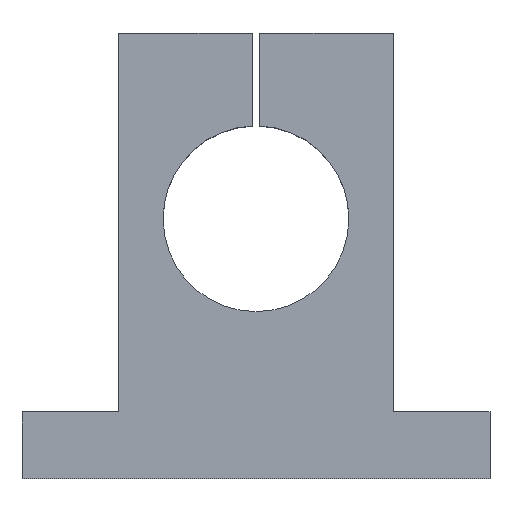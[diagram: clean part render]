
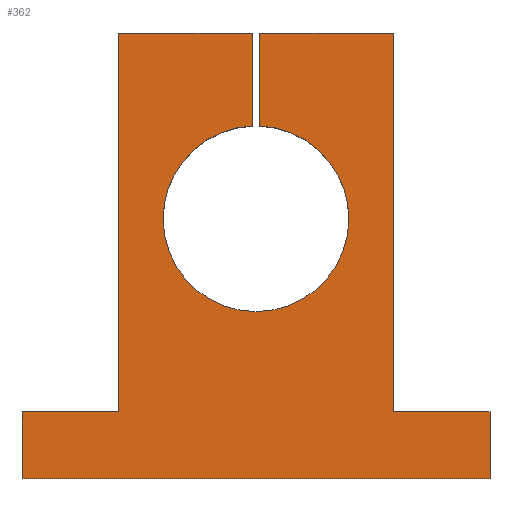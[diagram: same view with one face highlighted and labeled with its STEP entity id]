
A CAD part, top view. The second image highlights one B-rep face of the part: STEP entity #362.
In plain terms, the highlighted planar face has unit normal (0, 0, 1).
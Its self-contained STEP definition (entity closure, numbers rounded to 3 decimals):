
#27=CIRCLE('',#397,25.);
#47=ORIENTED_EDGE('',*,*,#139,.F.);
#48=ORIENTED_EDGE('',*,*,#135,.T.);
#49=ORIENTED_EDGE('',*,*,#140,.T.);
#50=ORIENTED_EDGE('',*,*,#141,.T.);
#51=ORIENTED_EDGE('',*,*,#142,.T.);
#52=ORIENTED_EDGE('',*,*,#143,.T.);
#53=ORIENTED_EDGE('',*,*,#144,.T.);
#54=ORIENTED_EDGE('',*,*,#145,.T.);
#55=ORIENTED_EDGE('',*,*,#146,.T.);
#56=ORIENTED_EDGE('',*,*,#147,.T.);
#57=ORIENTED_EDGE('',*,*,#132,.F.);
#58=ORIENTED_EDGE('',*,*,#148,.F.);
#132=EDGE_CURVE('',#178,#179,#212,.T.);
#135=EDGE_CURVE('',#181,#182,#214,.T.);
#139=EDGE_CURVE('',#181,#185,#218,.T.);
#140=EDGE_CURVE('',#182,#186,#219,.T.);
#141=EDGE_CURVE('',#186,#187,#220,.T.);
#142=EDGE_CURVE('',#187,#188,#221,.T.);
#143=EDGE_CURVE('',#188,#189,#222,.T.);
#144=EDGE_CURVE('',#189,#190,#223,.T.);
#145=EDGE_CURVE('',#190,#191,#224,.T.);
#146=EDGE_CURVE('',#191,#192,#225,.T.);
#147=EDGE_CURVE('',#192,#179,#226,.T.);
#148=EDGE_CURVE('',#185,#178,#27,.T.);
#178=VERTEX_POINT('',#531);
#179=VERTEX_POINT('',#533);
#181=VERTEX_POINT('',#539);
#182=VERTEX_POINT('',#540);
#185=VERTEX_POINT('',#548);
#186=VERTEX_POINT('',#550);
#187=VERTEX_POINT('',#552);
#188=VERTEX_POINT('',#554);
#189=VERTEX_POINT('',#556);
#190=VERTEX_POINT('',#558);
#191=VERTEX_POINT('',#560);
#192=VERTEX_POINT('',#562);
#212=LINE('',#532,#246);
#214=LINE('',#538,#248);
#218=LINE('',#547,#252);
#219=LINE('',#549,#253);
#220=LINE('',#551,#254);
#221=LINE('',#553,#255);
#222=LINE('',#555,#256);
#223=LINE('',#557,#257);
#224=LINE('',#559,#258);
#225=LINE('',#561,#259);
#226=LINE('',#563,#260);
#246=VECTOR('',#431,1000.);
#248=VECTOR('',#437,1000.);
#252=VECTOR('',#443,1000.);
#253=VECTOR('',#444,1000.);
#254=VECTOR('',#445,1000.);
#255=VECTOR('',#446,1000.);
#256=VECTOR('',#447,1000.);
#257=VECTOR('',#448,1000.);
#258=VECTOR('',#449,1000.);
#259=VECTOR('',#450,1000.);
#260=VECTOR('',#451,1000.);
#281=EDGE_LOOP('',(#47,#48,#49,#50,#51,#52,#53,#54,#55,#56,#57,#58));
#315=FACE_BOUND('',#281,.T.);
#348=PLANE('',#396);
#362=ADVANCED_FACE('',(#315),#348,.T.);
#396=AXIS2_PLACEMENT_3D('',#546,#441,#442);
#397=AXIS2_PLACEMENT_3D('',#564,#452,#453);
#431=DIRECTION('',(0.,1.,0.));
#437=DIRECTION('',(-1.,0.,0.));
#441=DIRECTION('',(0.,0.,1.));
#442=DIRECTION('',(1.,0.,0.));
#443=DIRECTION('',(0.,-1.,0.));
#444=DIRECTION('',(0.,-1.,0.));
#445=DIRECTION('',(-1.,0.,0.));
#446=DIRECTION('',(0.,-1.,0.));
#447=DIRECTION('',(1.,0.,0.));
#448=DIRECTION('',(0.,1.,0.));
#449=DIRECTION('',(-1.,0.,0.));
#450=DIRECTION('',(0.,1.,0.));
#451=DIRECTION('',(-1.,0.,0.));
#452=DIRECTION('',(0.,0.,1.));
#453=DIRECTION('',(1.,0.,0.));
#531=CARTESIAN_POINT('',(1.,24.98,20.));
#532=CARTESIAN_POINT('',(1.,50.,20.));
#533=CARTESIAN_POINT('',(1.,50.,20.));
#538=CARTESIAN_POINT('',(37.,50.,20.));
#539=CARTESIAN_POINT('',(-1.,50.,20.));
#540=CARTESIAN_POINT('',(-37.,50.,20.));
#546=CARTESIAN_POINT('',(63.,-52.,20.));
#547=CARTESIAN_POINT('',(-1.,50.,20.));
#548=CARTESIAN_POINT('',(-1.,24.98,20.));
#549=CARTESIAN_POINT('',(-37.,-52.,20.));
#550=CARTESIAN_POINT('',(-37.,-52.,20.));
#551=CARTESIAN_POINT('',(-63.,-52.,20.));
#552=CARTESIAN_POINT('',(-63.,-52.,20.));
#553=CARTESIAN_POINT('',(-63.,-70.,20.));
#554=CARTESIAN_POINT('',(-63.,-70.,20.));
#555=CARTESIAN_POINT('',(-63.,-70.,20.));
#556=CARTESIAN_POINT('',(63.,-70.,20.));
#557=CARTESIAN_POINT('',(63.,-70.,20.));
#558=CARTESIAN_POINT('',(63.,-52.,20.));
#559=CARTESIAN_POINT('',(63.,-52.,20.));
#560=CARTESIAN_POINT('',(37.,-52.,20.));
#561=CARTESIAN_POINT('',(37.,-52.,20.));
#562=CARTESIAN_POINT('',(37.,50.,20.));
#563=CARTESIAN_POINT('',(37.,50.,20.));
#564=CARTESIAN_POINT('',(0.,0.,20.));
